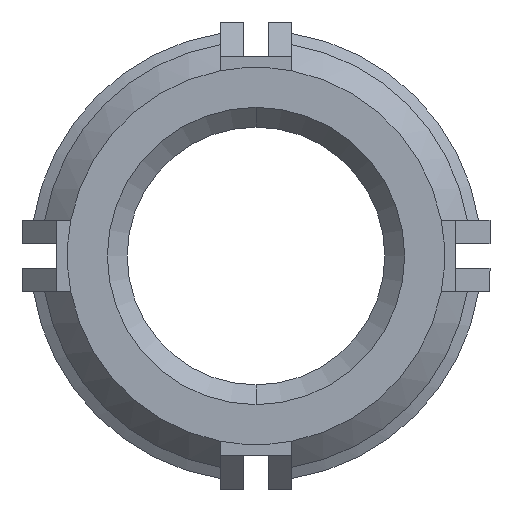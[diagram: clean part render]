
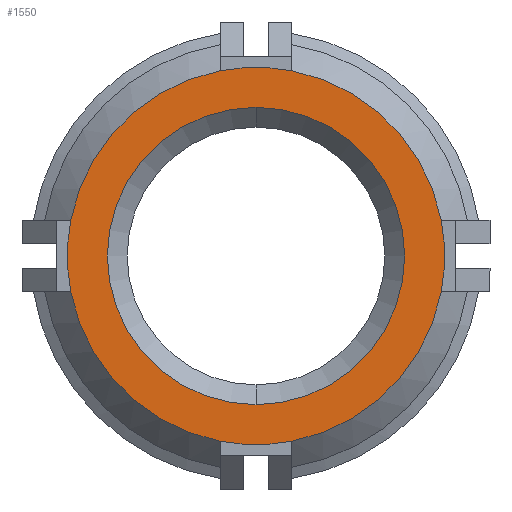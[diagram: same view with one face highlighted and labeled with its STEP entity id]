
A CAD part, front view. The second image highlights one B-rep face of the part: STEP entity #1550.
In plain terms, the highlighted planar face has unit normal (0, -1, 0).
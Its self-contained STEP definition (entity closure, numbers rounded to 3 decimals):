
#32 = AXIS2_PLACEMENT_3D ( 'NONE', #1696, #5088, #3793 ) ;
#60 = ORIENTED_EDGE ( 'NONE', *, *, #4365, .T. ) ;
#217 = CARTESIAN_POINT ( 'NONE',  ( 0., -17.272, 0. ) ) ;
#226 = DIRECTION ( 'NONE',  ( 0., -1., 0. ) ) ;
#233 = DIRECTION ( 'NONE',  ( 0., 0., 1. ) ) ;
#331 = VERTEX_POINT ( 'NONE', #3199 ) ;
#361 = AXIS2_PLACEMENT_3D ( 'NONE', #2698, #1810, #2681 ) ;
#395 = DIRECTION ( 'NONE',  ( 0., -1., 0. ) ) ;
#474 = CARTESIAN_POINT ( 'NONE',  ( 9.132, -17.272, 1.75 ) ) ;
#486 = CARTESIAN_POINT ( 'NONE',  ( 0., -17.272, -7.327 ) ) ;
#517 = AXIS2_PLACEMENT_3D ( 'NONE', #4765, #4314, #3465 ) ;
#534 = DIRECTION ( 'NONE',  ( -1., 0., 0. ) ) ;
#551 = ORIENTED_EDGE ( 'NONE', *, *, #2095, .T. ) ;
#759 = CARTESIAN_POINT ( 'NONE',  ( 0., -17.272, 0. ) ) ;
#870 = AXIS2_PLACEMENT_3D ( 'NONE', #3710, #3329, #4087 ) ;
#943 = DIRECTION ( 'NONE',  ( 1., 0., 0. ) ) ;
#1061 = DIRECTION ( 'NONE',  ( 0., 1., 0. ) ) ;
#1156 = CARTESIAN_POINT ( 'NONE',  ( 1.75, -17.272, 9.132 ) ) ;
#1224 = CARTESIAN_POINT ( 'NONE',  ( 0., -17.272, 7.327 ) ) ;
#1280 = CIRCLE ( 'NONE', #517, 7.327 ) ;
#1292 = ORIENTED_EDGE ( 'NONE', *, *, #3590, .T. ) ;
#1310 = CIRCLE ( 'NONE', #3161, 9.298 ) ;
#1352 = AXIS2_PLACEMENT_3D ( 'NONE', #3989, #1061, #4818 ) ;
#1375 = AXIS2_PLACEMENT_3D ( 'NONE', #3295, #2091, #4558 ) ;
#1442 = DIRECTION ( 'NONE',  ( 0., -1., 0. ) ) ;
#1466 = ORIENTED_EDGE ( 'NONE', *, *, #1628, .T. ) ;
#1471 = VERTEX_POINT ( 'NONE', #1621 ) ;
#1550 = ADVANCED_FACE ( 'NONE', ( #2802, #3930 ), #5052, .F. ) ;
#1575 = DIRECTION ( 'NONE',  ( 0., -1., 0. ) ) ;
#1586 = EDGE_LOOP ( 'NONE', ( #2684, #3928, #1292, #2715, #2924, #60, #2318, #4003 ) ) ;
#1621 = CARTESIAN_POINT ( 'NONE',  ( -9.132, -17.272, -1.75 ) ) ;
#1628 = EDGE_CURVE ( 'NONE', #3086, #3324, #1280, .T. ) ;
#1655 = CIRCLE ( 'NONE', #3229, 9.298 ) ;
#1657 = CIRCLE ( 'NONE', #2606, 9.298 ) ;
#1696 = CARTESIAN_POINT ( 'NONE',  ( 0., -17.272, 0. ) ) ;
#1803 = VERTEX_POINT ( 'NONE', #1156 ) ;
#1810 = DIRECTION ( 'NONE',  ( 0., -1., 0. ) ) ;
#1833 = CARTESIAN_POINT ( 'NONE',  ( 0., -17.272, 0. ) ) ;
#1894 = EDGE_CURVE ( 'NONE', #4541, #1471, #4827, .T. ) ;
#1971 = VERTEX_POINT ( 'NONE', #474 ) ;
#2091 = DIRECTION ( 'NONE',  ( 0., -1., 0. ) ) ;
#2095 = EDGE_CURVE ( 'NONE', #3324, #3086, #4361, .T. ) ;
#2122 = EDGE_CURVE ( 'NONE', #1471, #2200, #1310, .T. ) ;
#2187 = CIRCLE ( 'NONE', #1375, 9.298 ) ;
#2200 = VERTEX_POINT ( 'NONE', #3705 ) ;
#2318 = ORIENTED_EDGE ( 'NONE', *, *, #4539, .T. ) ;
#2483 = DIRECTION ( 'NONE',  ( 0., 0., 1. ) ) ;
#2606 = AXIS2_PLACEMENT_3D ( 'NONE', #4844, #226, #943 ) ;
#2681 = DIRECTION ( 'NONE',  ( 0., 0., 1. ) ) ;
#2684 = ORIENTED_EDGE ( 'NONE', *, *, #1894, .T. ) ;
#2698 = CARTESIAN_POINT ( 'NONE',  ( 0., -17.272, 0. ) ) ;
#2715 = ORIENTED_EDGE ( 'NONE', *, *, #4616, .T. ) ;
#2754 = CARTESIAN_POINT ( 'NONE',  ( -9.132, -17.272, 1.75 ) ) ;
#2802 = FACE_BOUND ( 'NONE', #4047, .T. ) ;
#2909 = VERTEX_POINT ( 'NONE', #3320 ) ;
#2924 = ORIENTED_EDGE ( 'NONE', *, *, #4803, .T. ) ;
#3086 = VERTEX_POINT ( 'NONE', #486 ) ;
#3161 = AXIS2_PLACEMENT_3D ( 'NONE', #217, #1442, #233 ) ;
#3187 = CIRCLE ( 'NONE', #3690, 9.298 ) ;
#3199 = CARTESIAN_POINT ( 'NONE',  ( 1.75, -17.272, -9.132 ) ) ;
#3229 = AXIS2_PLACEMENT_3D ( 'NONE', #1833, #5204, #534 ) ;
#3244 = CIRCLE ( 'NONE', #5033, 9.298 ) ;
#3295 = CARTESIAN_POINT ( 'NONE',  ( 0., -17.272, 0. ) ) ;
#3320 = CARTESIAN_POINT ( 'NONE',  ( 9.132, -17.272, -1.75 ) ) ;
#3324 = VERTEX_POINT ( 'NONE', #1224 ) ;
#3329 = DIRECTION ( 'NONE',  ( 0., -1., 0. ) ) ;
#3465 = DIRECTION ( 'NONE',  ( 0., 0., 1. ) ) ;
#3590 = EDGE_CURVE ( 'NONE', #2200, #331, #1655, .T. ) ;
#3690 = AXIS2_PLACEMENT_3D ( 'NONE', #759, #1575, #5327 ) ;
#3705 = CARTESIAN_POINT ( 'NONE',  ( -1.75, -17.272, -9.132 ) ) ;
#3710 = CARTESIAN_POINT ( 'NONE',  ( 0., -17.272, 0. ) ) ;
#3793 = DIRECTION ( 'NONE',  ( 0., 0., 1. ) ) ;
#3928 = ORIENTED_EDGE ( 'NONE', *, *, #2122, .T. ) ;
#3930 = FACE_OUTER_BOUND ( 'NONE', #1586, .T. ) ;
#3950 = VERTEX_POINT ( 'NONE', #5197 ) ;
#3989 = CARTESIAN_POINT ( 'NONE',  ( 0., -17.272, 0. ) ) ;
#4003 = ORIENTED_EDGE ( 'NONE', *, *, #5015, .T. ) ;
#4047 = EDGE_LOOP ( 'NONE', ( #1466, #551 ) ) ;
#4087 = DIRECTION ( 'NONE',  ( 0., 0., 1. ) ) ;
#4314 = DIRECTION ( 'NONE',  ( 0., 1., 0. ) ) ;
#4361 = CIRCLE ( 'NONE', #1352, 7.327 ) ;
#4365 = EDGE_CURVE ( 'NONE', #1971, #1803, #3244, .T. ) ;
#4539 = EDGE_CURVE ( 'NONE', #1803, #3950, #1657, .T. ) ;
#4541 = VERTEX_POINT ( 'NONE', #2754 ) ;
#4558 = DIRECTION ( 'NONE',  ( 0., 0., -1. ) ) ;
#4616 = EDGE_CURVE ( 'NONE', #331, #2909, #3187, .T. ) ;
#4765 = CARTESIAN_POINT ( 'NONE',  ( 0., -17.272, 0. ) ) ;
#4803 = EDGE_CURVE ( 'NONE', #2909, #1971, #2187, .T. ) ;
#4818 = DIRECTION ( 'NONE',  ( 0., 0., 1. ) ) ;
#4827 = CIRCLE ( 'NONE', #870, 9.298 ) ;
#4844 = CARTESIAN_POINT ( 'NONE',  ( 0., -17.272, 0. ) ) ;
#5015 = EDGE_CURVE ( 'NONE', #3950, #4541, #5240, .T. ) ;
#5033 = AXIS2_PLACEMENT_3D ( 'NONE', #5456, #395, #2483 ) ;
#5052 = PLANE ( 'NONE',  #32 ) ;
#5088 = DIRECTION ( 'NONE',  ( 0., 1., 0. ) ) ;
#5197 = CARTESIAN_POINT ( 'NONE',  ( -1.75, -17.272, 9.132 ) ) ;
#5204 = DIRECTION ( 'NONE',  ( 0., -1., 0. ) ) ;
#5240 = CIRCLE ( 'NONE', #361, 9.298 ) ;
#5327 = DIRECTION ( 'NONE',  ( 0., 0., 1. ) ) ;
#5456 = CARTESIAN_POINT ( 'NONE',  ( 0., -17.272, 0. ) ) ;
